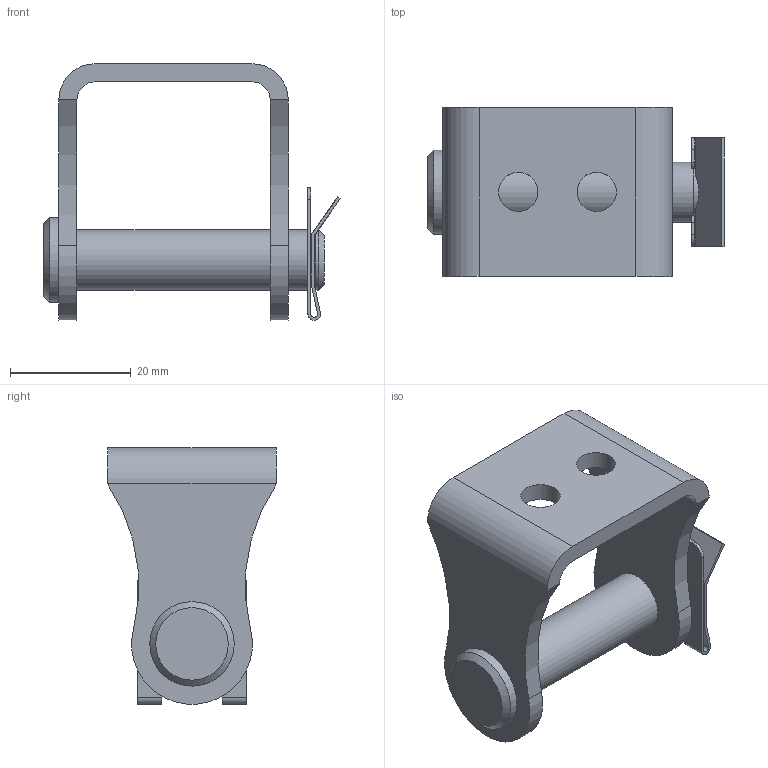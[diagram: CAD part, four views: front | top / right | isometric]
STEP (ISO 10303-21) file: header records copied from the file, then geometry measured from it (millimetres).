
FILE_DESCRIPTION(/* description */ (''),/* implementation_level */ '2;1');
FILE_NAME(/* name */ 'G:\3D-Zeichnungen\Easy-E-line\Beschläge\montiert\Step\EEL900BA35-2MS.stp',/* time_stamp */ '2019-07-17T11:12:53+02:00',/* author */ ('cadneu2'),/* organization */ (''),/* preprocessor_version */ 'ST-DEVELOPER v16.1',/* originating_system */ 'Autodesk Inventor 2016',/* authorisation */ '');
FILE_SCHEMA (('AUTOMOTIVE_DESIGN { 1 0 10303 214 3 1 1 }'));
Length unit declared in the file: millimetre
Products named in the file (4): EEL900BA35U2MS; EEL35-BO-MO; 63790901; EEL900BA35-2MS
Assembly tree (3 placements, depth 2):
  EEL900BA35-2MS
    EEL900BA35U2MS
    EEL35-BO-MO
    63790901
Bounding box: 49.12 x 28 x 42.5 mm (x, y, z)
Volume: 10872.8 mm3; surface area: 8563.1 mm2
Topology: 3 solids, 3 shells, 68 faces, 171 edges, 110 vertices
Faces by surface type: plane 36, cylinder 30, cone 2
Full cylindrical faces by diameter (mm): 6.5 x2, 8 x1, 10 x4, 14 x1
Entity records: 2092 total; most frequent: DIRECTION 373, CARTESIAN_POINT 347, ORIENTED_EDGE 318, EDGE_CURVE 159, AXIS2_PLACEMENT_3D 140, VERTEX_POINT 108, LINE 93, VECTOR 93
